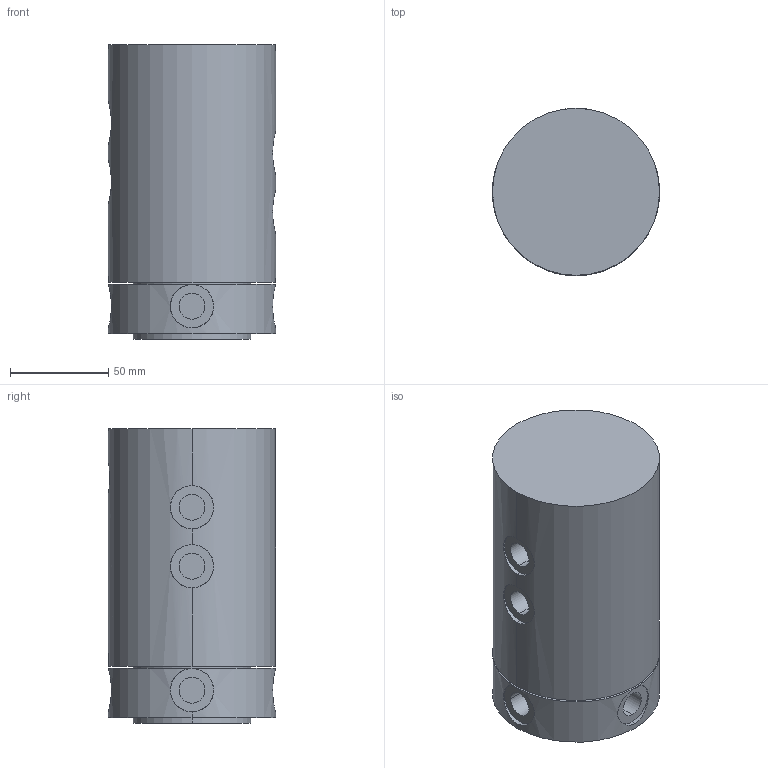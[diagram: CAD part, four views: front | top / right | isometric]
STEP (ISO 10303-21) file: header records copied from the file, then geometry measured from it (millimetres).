
FILE_DESCRIPTION (( 'STEP AP203' ), '1' );
FILE_NAME ('5110 244.STEP', '2016-01-29T10:33:21', ( '' ), ( '' ), 'SwSTEP 2.0', 'SolidWorks 2015', '' );
FILE_SCHEMA (( 'CONFIG_CONTROL_DESIGN' ));
Length unit declared in the file: millimetre
Products named in the file (1): 5110 244
Bounding box: 85 x 85 x 150 mm (x, y, z)
Volume: 806544 mm3; surface area: 66558.4 mm2
Topology: 1 solids, 1 shells, 103 faces, 214 edges, 140 vertices
Faces by surface type: cylinder 68, plane 35
Entity records: 3677 total; most frequent: CARTESIAN_POINT 1320, DIRECTION 518, ORIENTED_EDGE 428, AXIS2_PLACEMENT_3D 222, EDGE_CURVE 214, VERTEX_POINT 140, EDGE_LOOP 130, CIRCLE 118
